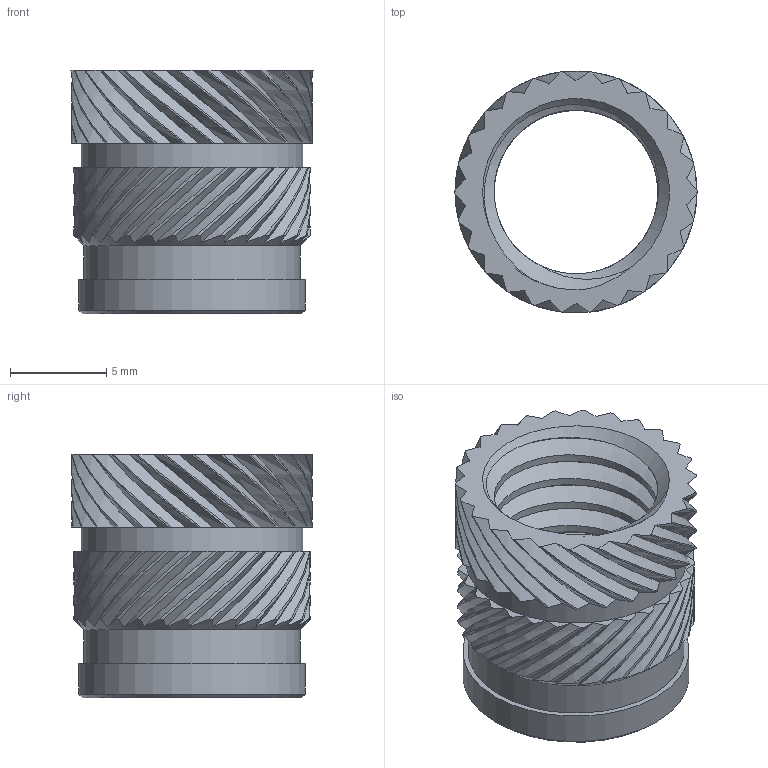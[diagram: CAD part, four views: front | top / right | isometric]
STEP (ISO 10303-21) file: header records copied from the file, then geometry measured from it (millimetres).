
FILE_DESCRIPTION(/* description */ ('','CAx-IF Rec.Pracs.---Representation and Presentation of Product Manufacturing Information (PMI)---4.0---2014-10-13'),/* implementation_level */ '2;1');
FILE_NAME(/* name */ 'M10_Standard.step',/* time_stamp */ '2025-02-25T11:01:23+01:00',/* author */ (''),/* organization */ (''),/* preprocessor_version */ 'ST-DEVELOPER v20',/* originating_system */ 'Autodesk Translation Framework v13.20.0.188',/* authorisation */ '');
FILE_SCHEMA (('AP242_MANAGED_MODEL_BASED_3D_ENGINEERING_MIM_LF { 1 0 10303 442 1 1 4 }'));
Length unit declared in the file: millimetre
Products named in the file (1): Insert_M10
Bounding box: 12.6 x 12.59 x 12.7 mm (x, y, z)
Volume: 548.4 mm3; surface area: 1319 mm2
Topology: 1 solids, 12 shells, 391 faces, 1091 edges, 727 vertices
Faces by surface type: bspline 215, plane 94, cylinder 78, cone 4
Full cylindrical faces by diameter (mm): 8.526 x4, 10.198 x3, 11.25 x1, 11.55 x1, 11.8 x1
Entity records: 17052 total; most frequent: CARTESIAN_POINT 8760, ORIENTED_EDGE 2182, EDGE_CURVE 1091, DIRECTION 930, VERTEX_POINT 727, B_SPLINE_CURVE_WITH_KNOTS 641, EDGE_LOOP 398, FACE_OUTER_BOUND 391
